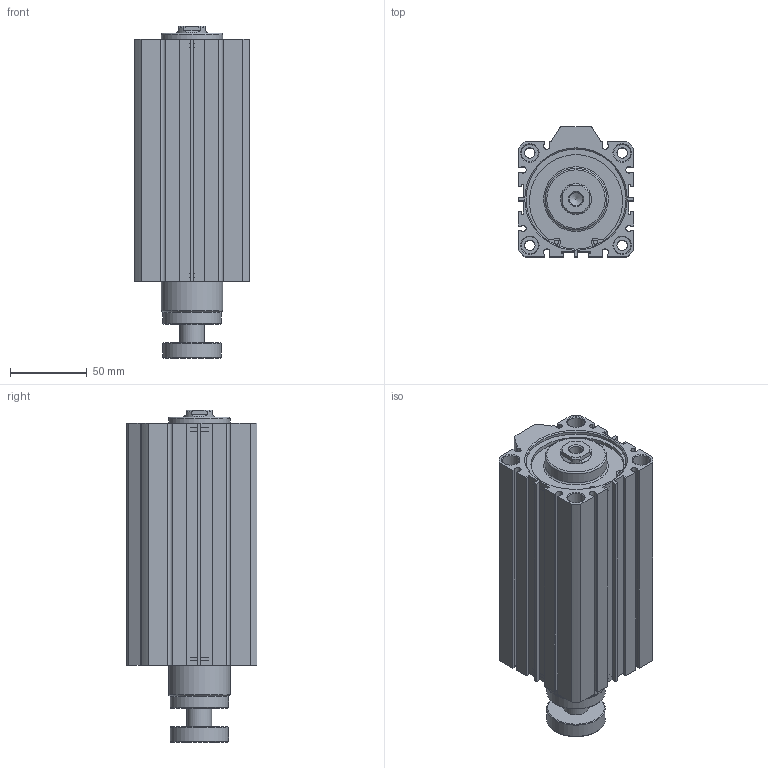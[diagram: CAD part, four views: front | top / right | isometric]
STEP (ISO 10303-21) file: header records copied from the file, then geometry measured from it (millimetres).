
FILE_DESCRIPTION((''),'2;1');
FILE_NAME('I:\3D電子目錄\氣缸\JDAR\JDAR\JDAR63\JDAR63x125.stp','2007-03-14T11:54:40',('662F206'),(''),'Autodesk Inventor 11','Autodesk Inventor 11','');
FILE_SCHEMA(('AUTOMOTIVE_DESIGN { 1 0 10303 214 1 1 1 1 }'));
Length unit declared in the file: millimetre
Products named in the file (3): JDAR63; R 形環 65
Assembly tree (3 placements, depth 2):
  JDAR63
    JDAR63
    R 形環 65  x2
Bounding box: 75 x 84.5 x 215.8 mm (x, y, z)
Volume: 877121.1 mm3; surface area: 112208.9 mm2
Topology: 3 solids, 3 shells, 197 faces, 484 edges, 317 vertices
Faces by surface type: plane 110, cylinder 58, cone 23, bspline 4, torus 2
Full cylindrical faces by diameter (mm): 2.7 x4, 3 x2, 6.8 x4, 11 x8, 16 x1, 20 x1, 38 x2, 40 x2, 65 x4, 68 x2
Entity records: 5335 total; most frequent: CARTESIAN_POINT 1013, DIRECTION 898, ORIENTED_EDGE 788, EDGE_CURVE 394, AXIS2_PLACEMENT_3D 325, VERTEX_POINT 290, EDGE_LOOP 274, VECTOR 248
